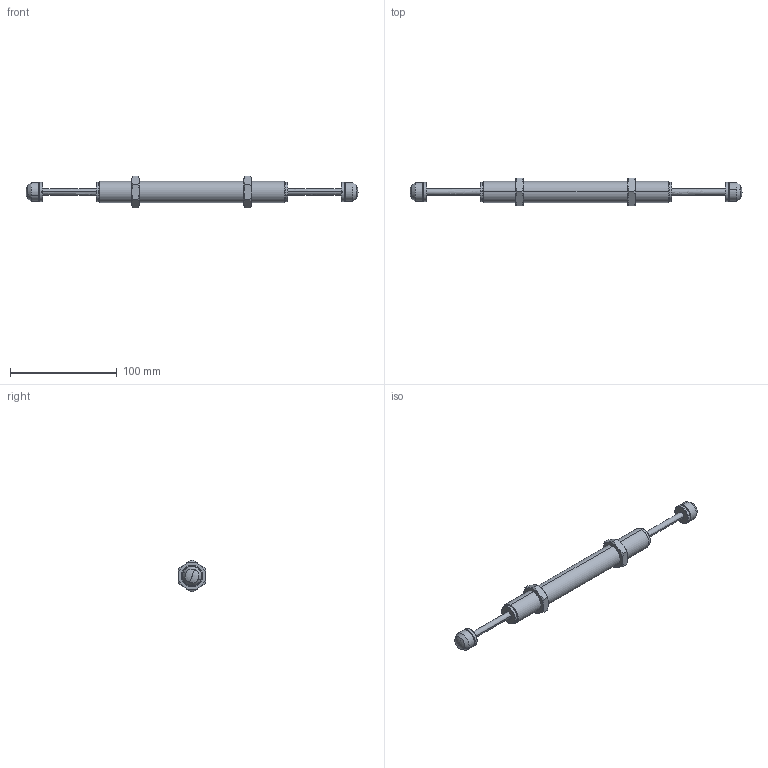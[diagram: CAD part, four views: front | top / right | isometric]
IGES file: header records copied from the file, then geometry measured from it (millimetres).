
Start section: SolidWorks IGES file using analytic representation for surfaces
Global section: file name: D:\IGS跡宒\ACD2050-2M-(QY).IGS,1; native system: 5HSolidWorks 2013; preprocessor: SolidWorks 2013; author: Administrator; date: 160920.094330; units: inch
Bounding box: 311.6 x 26 x 30.02 mm (x, y, z)
Surface area: 21038.8 mm2 (no closed solid volume)
Topology: 0 solids, 0 shells, 114 faces, 2032 edges, 2030 vertices
Faces by surface type: revolution 86, bspline 28
